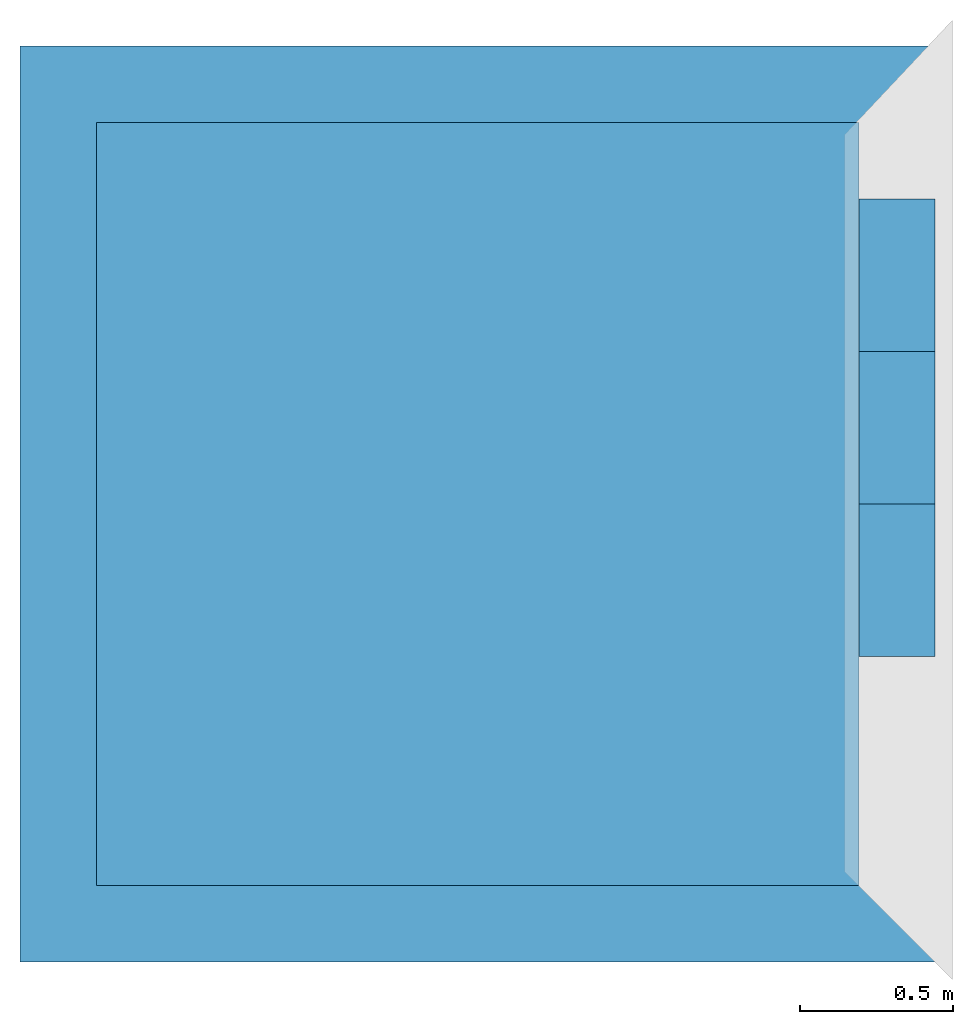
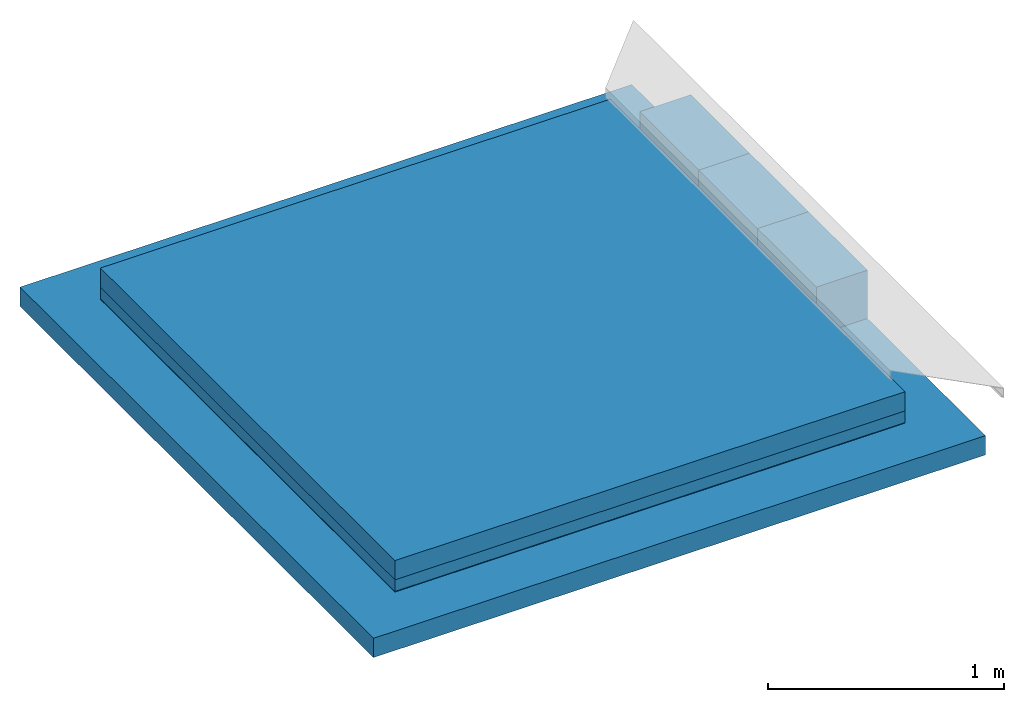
# One storey, part 1 of 2: 4 building element parts, 3 walls, 2 elements without a shape of their own.
"""IFC4 building model written with IfcOpenShell, lengths in centimetres."""

from ifc_helpers import new_model, entity, si_unit, converted_unit, direction, frame, origin, place, context, subcontext, project, spatial, indexed_curve, outline, extrude, material, type_object, element, aggregate, save


model = new_model("IFC4")

# Units and contexts
model_context = context("Model", 3, precision=0.001, world=origin(), true_north=direction((0.0, 1.0)))
body_context = subcontext(model_context, "Body", "Model", "MODEL_VIEW")
ifc_project = project(units=[si_unit("LENGTHUNIT", "METRE", prefix="CENTI"), si_unit("AREAUNIT", "SQUARE_METRE"), si_unit("VOLUMEUNIT", "CUBIC_METRE"), converted_unit("PLANEANGLEUNIT", "DEGREE", entity("IfcPlaneAngleMeasure", 0.017453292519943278), si_unit("PLANEANGLEUNIT", "RADIAN"), dimensions=[0, 0, 0, 0, 0, 0, 0])], contexts=[model_context])

# Site, building, storey
site_placement = place(None, origin())
site = spatial("IfcSite", under=ifc_project, at=site_placement, Name="Default", CompositionType="ELEMENT")
building_placement = place(site_placement, origin())
building = spatial("IfcBuilding", under=site, at=building_placement, CompositionType="ELEMENT")
storey_placement = place(building_placement, frame((0.0, 0.0, 256.0)))
storey = spatial("IfcBuildingStorey", under=building, at=storey_placement, Name="L01__ABOVE Slab", CompositionType="ELEMENT", Elevation=255.9999999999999)

# Walls
ifc_material_1 = material(Name="Miscellaneous__Timber Block__Triqbriq, X", Category="Miscellaneous")
wall_type = type_object("IfcWallType", Name="Columns : wll_s__TIMBER BLOCK__Triqbriq, Full Width__wp : WS25", PredefinedType="SOLIDWALL", material=ifc_material_1)
wall_1_placement = place(storey_placement, frame((3156.8289147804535, 2228.52003096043, 0.0), z_axis=(0.0, 0.0, 1.0), x_axis=(0.0, 1.0, 0.0)))
element("IfcWall", 1, at=wall_1_placement, inside=storey, type_object=wall_type, material=ifc_material_1, Name="Columns : wll_s__TIMBER BLOCK__Triqbriq, Full Width__wp : WS25", PredefinedType="SOLIDWALL", context=body_context, shape_type="SweptSolid", body=[
    extrude(outline(indexed_curve([(-4.166666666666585, -4.166666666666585), (4.166666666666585, -4.166666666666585), (4.166666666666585, 4.166666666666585), (-4.166666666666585, 4.166666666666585), (-4.166666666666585, -4.166666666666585)], self_intersect=False)), frame((12.500000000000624, -12.500000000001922, 16.666666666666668)), (0.0, 0.0, 1.0), 8.333333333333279),
    extrude(outline(indexed_curve([(-4.166666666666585, -4.166666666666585), (4.166666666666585, -4.166666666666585), (4.166666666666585, 4.166666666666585), (-4.166666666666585, 4.166666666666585), (-4.166666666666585, -4.166666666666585)], self_intersect=False)), frame((37.50000000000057, -12.500000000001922, 16.666666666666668)), (0.0, 0.0, 1.0), 8.333333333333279),
    extrude(outline(indexed_curve([(-4.166666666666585, -4.166666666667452), (4.166666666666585, -4.166666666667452), (4.166666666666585, 4.166666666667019), (-4.166666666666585, 4.166666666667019), (-4.166666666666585, -4.166666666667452)], self_intersect=False)), frame((4.166666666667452, -4.166666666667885, 8.333333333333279)), (0.0, 0.0, 1.0), 8.333333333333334),
    extrude(outline(indexed_curve([(-4.166666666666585, -4.166666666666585), (4.166666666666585, -4.166666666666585), (4.166666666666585, 4.166666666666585), (-4.166666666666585, 4.166666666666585), (-4.166666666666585, -4.166666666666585)], self_intersect=False)), frame((4.166666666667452, -20.833333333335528, 8.333333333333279)), (0.0, 0.0, 1.0), 8.333333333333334),
    extrude(outline(indexed_curve([(-4.166666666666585, -4.166666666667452), (4.166666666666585, -4.166666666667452), (4.166666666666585, 4.166666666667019), (-4.166666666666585, 4.166666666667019), (-4.166666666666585, -4.166666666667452)], self_intersect=False)), frame((45.833333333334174, -4.166666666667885, 8.333333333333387)), (0.0, 0.0, 1.0), 8.333333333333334),
    extrude(outline(indexed_curve([(-4.166666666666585, -4.166666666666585), (4.166666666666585, -4.166666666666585), (4.166666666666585, 4.166666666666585), (-4.166666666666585, 4.166666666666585), (-4.166666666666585, -4.166666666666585)], self_intersect=False)), frame((45.833333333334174, -20.833333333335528, 8.333333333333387)), (0.0, 0.0, 1.0), 8.333333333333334),
    extrude(outline(indexed_curve([(-8.33333333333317, -4.166666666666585), (8.333333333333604, -4.166666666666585), (8.333333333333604, 4.166666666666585), (-8.33333333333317, 4.166666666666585), (-8.33333333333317, -4.166666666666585)], self_intersect=False)), frame((25.0, -20.833333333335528, 8.333333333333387)), (0.0, 0.0, 1.0), 8.333333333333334),
    extrude(outline(indexed_curve([(-8.33333333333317, -4.166666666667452), (8.333333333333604, -4.166666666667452), (8.333333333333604, 4.166666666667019), (-8.33333333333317, 4.166666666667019), (-8.33333333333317, -4.166666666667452)], self_intersect=False)), frame((25.0, -4.166666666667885, 8.333333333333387)), (0.0, 0.0, 1.0), 8.333333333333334),
    extrude(outline(indexed_curve([(-24.999999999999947, -4.166666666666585), (24.999999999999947, -4.166666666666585), (24.999999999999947, 4.166666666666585), (-24.999999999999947, 4.166666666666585), (-24.999999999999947, -4.166666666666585)], self_intersect=False)), frame((25.0, -12.500000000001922, 8.333333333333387)), (0.0, 0.0, 1.0), 8.333333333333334),
    extrude(outline(indexed_curve([(-4.166666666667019, -12.50000000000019), (4.166666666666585, -12.50000000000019), (4.166666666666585, 12.500000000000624), (-4.166666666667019, 12.500000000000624), (-4.166666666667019, -12.50000000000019)], self_intersect=False)), frame((20.833333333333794, -12.500000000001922, 0.0)), (0.0, 0.0, 1.0), 8.333333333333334),
    extrude(outline(indexed_curve([(-4.166666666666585, -12.50000000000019), (4.166666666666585, -12.50000000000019), (4.166666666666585, 12.500000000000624), (-4.166666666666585, 12.500000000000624), (-4.166666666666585, -12.50000000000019)], self_intersect=False)), frame((29.166666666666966, -12.500000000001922, 0.0)), (0.0, 0.0, 1.0), 8.333333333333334),
    extrude(outline(indexed_curve([(-4.166666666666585, -12.50000000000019), (4.166666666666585, -12.50000000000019), (4.166666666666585, 12.500000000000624), (-4.166666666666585, 12.500000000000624), (-4.166666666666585, -12.50000000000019)], self_intersect=False)), frame((4.166666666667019, -12.500000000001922, 0.0)), (0.0, 0.0, 1.0), 8.333333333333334),
    extrude(outline(indexed_curve([(-4.166666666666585, -12.50000000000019), (4.166666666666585, -12.50000000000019), (4.166666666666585, 12.500000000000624), (-4.166666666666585, 12.500000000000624), (-4.166666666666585, -12.50000000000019)], self_intersect=False)), frame((45.83333333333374, -12.500000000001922, 0.0)), (0.0, 0.0, 1.0), 8.333333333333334),
    extrude(outline(indexed_curve([(-4.166666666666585, -4.166666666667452), (4.166666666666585, -4.166666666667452), (4.166666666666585, 4.166666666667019), (-4.166666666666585, 4.166666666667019), (-4.166666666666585, -4.166666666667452)], self_intersect=False)), frame((12.50000000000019, -4.166666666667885, 0.0)), (0.0, 0.0, 1.0), 25.0),
    extrude(outline(indexed_curve([(-4.166666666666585, -4.166666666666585), (4.166666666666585, -4.166666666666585), (4.166666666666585, 4.166666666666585), (-4.166666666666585, 4.166666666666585), (-4.166666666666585, -4.166666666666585)], self_intersect=False)), frame((12.50000000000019, -20.833333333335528, 0.0)), (0.0, 0.0, 1.0), 25.0),
    extrude(outline(indexed_curve([(-4.166666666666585, -4.166666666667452), (4.166666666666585, -4.166666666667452), (4.166666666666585, 4.166666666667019), (-4.166666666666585, 4.166666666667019), (-4.166666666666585, -4.166666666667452)], self_intersect=False)), frame((37.500000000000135, -4.166666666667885, 0.0)), (0.0, 0.0, 1.0), 25.0),
    extrude(outline(indexed_curve([(-4.166666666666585, -4.166666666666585), (4.166666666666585, -4.166666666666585), (4.166666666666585, 4.166666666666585), (-4.166666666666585, 4.166666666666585), (-4.166666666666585, -4.166666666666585)], self_intersect=False)), frame((37.500000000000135, -20.833333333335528, 0.0)), (0.0, 0.0, 1.0), 25.0),
    extrude(outline(indexed_curve([(-4.166666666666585, -12.50000000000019), (4.166666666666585, -12.50000000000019), (4.166666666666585, 12.500000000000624), (-4.166666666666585, 12.500000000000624), (-4.166666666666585, -12.50000000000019)], self_intersect=False)), frame((4.166666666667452, -12.500000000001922, 16.666666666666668)), (0.0, 0.0, 1.0), 8.333333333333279),
    extrude(outline(indexed_curve([(-4.166666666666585, -12.50000000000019), (4.166666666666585, -12.50000000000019), (4.166666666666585, 12.500000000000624), (-4.166666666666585, 12.500000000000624), (-4.166666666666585, -12.50000000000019)], self_intersect=False)), frame((20.833333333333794, -12.500000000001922, 16.666666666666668)), (0.0, 0.0, 1.0), 8.333333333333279),
    extrude(outline(indexed_curve([(-4.166666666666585, -12.50000000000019), (4.166666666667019, -12.50000000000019), (4.166666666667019, 12.500000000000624), (-4.166666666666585, 12.500000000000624), (-4.166666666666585, -12.50000000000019)], self_intersect=False)), frame((29.166666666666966, -12.500000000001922, 16.666666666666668)), (0.0, 0.0, 1.0), 8.333333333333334),
    extrude(outline(indexed_curve([(-4.166666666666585, -12.50000000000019), (4.166666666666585, -12.50000000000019), (4.166666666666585, 12.500000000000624), (-4.166666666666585, 12.500000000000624), (-4.166666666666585, -12.50000000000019)], self_intersect=False)), frame((45.833333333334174, -12.500000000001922, 16.666666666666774)), (0.0, 0.0, 1.0), 8.333333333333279),
])
wall_2_placement = place(storey_placement, frame((3156.8289147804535, 2278.5200309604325, 0.0), z_axis=(0.0, 0.0, 1.0), x_axis=(0.0, 1.0, 0.0)))
element("IfcWall", 2, at=wall_2_placement, inside=storey, type_object=wall_type, material=ifc_material_1, Name="Columns : wll_s__TIMBER BLOCK__Triqbriq, Full Width__wp : WS25", PredefinedType="SOLIDWALL", context=body_context, shape_type="SweptSolid", body=[
    extrude(outline(indexed_curve([(-4.166666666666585, -4.166666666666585), (4.166666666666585, -4.166666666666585), (4.166666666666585, 4.166666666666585), (-4.166666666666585, 4.166666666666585), (-4.166666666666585, -4.166666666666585)], self_intersect=False)), frame((12.500000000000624, -12.500000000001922, 16.666666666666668)), (0.0, 0.0, 1.0), 8.333333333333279),
    extrude(outline(indexed_curve([(-4.166666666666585, -4.166666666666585), (4.166666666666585, -4.166666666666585), (4.166666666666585, 4.166666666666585), (-4.166666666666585, 4.166666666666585), (-4.166666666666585, -4.166666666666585)], self_intersect=False)), frame((37.50000000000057, -12.500000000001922, 16.666666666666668)), (0.0, 0.0, 1.0), 8.333333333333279),
    extrude(outline(indexed_curve([(-4.166666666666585, -4.166666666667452), (4.166666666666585, -4.166666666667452), (4.166666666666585, 4.166666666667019), (-4.166666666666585, 4.166666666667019), (-4.166666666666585, -4.166666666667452)], self_intersect=False)), frame((4.166666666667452, -4.166666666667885, 8.333333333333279)), (0.0, 0.0, 1.0), 8.333333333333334),
    extrude(outline(indexed_curve([(-4.166666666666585, -4.166666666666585), (4.166666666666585, -4.166666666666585), (4.166666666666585, 4.166666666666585), (-4.166666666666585, 4.166666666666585), (-4.166666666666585, -4.166666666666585)], self_intersect=False)), frame((4.166666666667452, -20.833333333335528, 8.333333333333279)), (0.0, 0.0, 1.0), 8.333333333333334),
    extrude(outline(indexed_curve([(-4.166666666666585, -4.166666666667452), (4.166666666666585, -4.166666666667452), (4.166666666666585, 4.166666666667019), (-4.166666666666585, 4.166666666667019), (-4.166666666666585, -4.166666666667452)], self_intersect=False)), frame((45.833333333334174, -4.166666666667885, 8.333333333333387)), (0.0, 0.0, 1.0), 8.333333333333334),
    extrude(outline(indexed_curve([(-4.166666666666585, -4.166666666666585), (4.166666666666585, -4.166666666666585), (4.166666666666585, 4.166666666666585), (-4.166666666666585, 4.166666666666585), (-4.166666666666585, -4.166666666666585)], self_intersect=False)), frame((45.833333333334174, -20.833333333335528, 8.333333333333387)), (0.0, 0.0, 1.0), 8.333333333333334),
    extrude(outline(indexed_curve([(-8.33333333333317, -4.166666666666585), (8.333333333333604, -4.166666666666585), (8.333333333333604, 4.166666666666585), (-8.33333333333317, 4.166666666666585), (-8.33333333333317, -4.166666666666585)], self_intersect=False)), frame((25.0, -20.833333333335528, 8.333333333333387)), (0.0, 0.0, 1.0), 8.333333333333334),
    extrude(outline(indexed_curve([(-8.33333333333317, -4.166666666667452), (8.333333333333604, -4.166666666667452), (8.333333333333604, 4.166666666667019), (-8.33333333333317, 4.166666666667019), (-8.33333333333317, -4.166666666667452)], self_intersect=False)), frame((25.0, -4.166666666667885, 8.333333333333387)), (0.0, 0.0, 1.0), 8.333333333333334),
    extrude(outline(indexed_curve([(-24.999999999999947, -4.166666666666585), (24.999999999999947, -4.166666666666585), (24.999999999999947, 4.166666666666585), (-24.999999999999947, 4.166666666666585), (-24.999999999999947, -4.166666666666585)], self_intersect=False)), frame((25.0, -12.500000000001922, 8.333333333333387)), (0.0, 0.0, 1.0), 8.333333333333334),
    extrude(outline(indexed_curve([(-4.166666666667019, -12.50000000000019), (4.166666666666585, -12.50000000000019), (4.166666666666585, 12.500000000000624), (-4.166666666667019, 12.500000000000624), (-4.166666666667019, -12.50000000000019)], self_intersect=False)), frame((20.833333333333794, -12.500000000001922, 0.0)), (0.0, 0.0, 1.0), 8.333333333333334),
    extrude(outline(indexed_curve([(-4.166666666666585, -12.50000000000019), (4.166666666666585, -12.50000000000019), (4.166666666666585, 12.500000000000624), (-4.166666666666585, 12.500000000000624), (-4.166666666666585, -12.50000000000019)], self_intersect=False)), frame((29.166666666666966, -12.500000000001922, 0.0)), (0.0, 0.0, 1.0), 8.333333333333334),
    extrude(outline(indexed_curve([(-4.166666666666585, -12.50000000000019), (4.166666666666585, -12.50000000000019), (4.166666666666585, 12.500000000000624), (-4.166666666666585, 12.500000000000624), (-4.166666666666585, -12.50000000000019)], self_intersect=False)), frame((4.166666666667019, -12.500000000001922, 0.0)), (0.0, 0.0, 1.0), 8.333333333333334),
    extrude(outline(indexed_curve([(-4.166666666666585, -12.50000000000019), (4.166666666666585, -12.50000000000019), (4.166666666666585, 12.500000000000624), (-4.166666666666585, 12.500000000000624), (-4.166666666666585, -12.50000000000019)], self_intersect=False)), frame((45.83333333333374, -12.500000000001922, 0.0)), (0.0, 0.0, 1.0), 8.333333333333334),
    extrude(outline(indexed_curve([(-4.166666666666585, -4.166666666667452), (4.166666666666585, -4.166666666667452), (4.166666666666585, 4.166666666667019), (-4.166666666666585, 4.166666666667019), (-4.166666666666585, -4.166666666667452)], self_intersect=False)), frame((12.50000000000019, -4.166666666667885, 0.0)), (0.0, 0.0, 1.0), 25.0),
    extrude(outline(indexed_curve([(-4.166666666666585, -4.166666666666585), (4.166666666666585, -4.166666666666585), (4.166666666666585, 4.166666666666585), (-4.166666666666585, 4.166666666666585), (-4.166666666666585, -4.166666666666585)], self_intersect=False)), frame((12.50000000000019, -20.833333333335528, 0.0)), (0.0, 0.0, 1.0), 25.0),
    extrude(outline(indexed_curve([(-4.166666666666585, -4.166666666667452), (4.166666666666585, -4.166666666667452), (4.166666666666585, 4.166666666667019), (-4.166666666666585, 4.166666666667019), (-4.166666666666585, -4.166666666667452)], self_intersect=False)), frame((37.500000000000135, -4.166666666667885, 0.0)), (0.0, 0.0, 1.0), 25.0),
    extrude(outline(indexed_curve([(-4.166666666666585, -4.166666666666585), (4.166666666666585, -4.166666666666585), (4.166666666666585, 4.166666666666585), (-4.166666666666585, 4.166666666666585), (-4.166666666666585, -4.166666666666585)], self_intersect=False)), frame((37.500000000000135, -20.833333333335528, 0.0)), (0.0, 0.0, 1.0), 25.0),
    extrude(outline(indexed_curve([(-4.166666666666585, -12.50000000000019), (4.166666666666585, -12.50000000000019), (4.166666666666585, 12.500000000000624), (-4.166666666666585, 12.500000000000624), (-4.166666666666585, -12.50000000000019)], self_intersect=False)), frame((4.166666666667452, -12.500000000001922, 16.666666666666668)), (0.0, 0.0, 1.0), 8.333333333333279),
    extrude(outline(indexed_curve([(-4.166666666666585, -12.50000000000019), (4.166666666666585, -12.50000000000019), (4.166666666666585, 12.500000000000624), (-4.166666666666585, 12.500000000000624), (-4.166666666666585, -12.50000000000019)], self_intersect=False)), frame((20.833333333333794, -12.500000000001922, 16.666666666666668)), (0.0, 0.0, 1.0), 8.333333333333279),
    extrude(outline(indexed_curve([(-4.166666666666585, -12.50000000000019), (4.166666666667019, -12.50000000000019), (4.166666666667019, 12.500000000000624), (-4.166666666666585, 12.500000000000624), (-4.166666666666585, -12.50000000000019)], self_intersect=False)), frame((29.166666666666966, -12.500000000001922, 16.666666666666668)), (0.0, 0.0, 1.0), 8.333333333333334),
    extrude(outline(indexed_curve([(-4.166666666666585, -12.50000000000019), (4.166666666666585, -12.50000000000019), (4.166666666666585, 12.500000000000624), (-4.166666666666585, 12.500000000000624), (-4.166666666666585, -12.50000000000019)], self_intersect=False)), frame((45.833333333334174, -12.500000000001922, 16.666666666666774)), (0.0, 0.0, 1.0), 8.333333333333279),
])
wall_3_placement = place(storey_placement, frame((3156.8289147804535, 2328.520030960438, 0.0), z_axis=(0.0, 0.0, 1.0), x_axis=(0.0, 1.0, 0.0)))
element("IfcWall", 3, at=wall_3_placement, inside=storey, type_object=wall_type, material=ifc_material_1, Name="Columns : wll_s__TIMBER BLOCK__Triqbriq, Full Width__wp : WS25", PredefinedType="SOLIDWALL", context=body_context, shape_type="SweptSolid", body=[
    extrude(outline(indexed_curve([(-4.166666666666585, -4.166666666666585), (4.166666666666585, -4.166666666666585), (4.166666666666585, 4.166666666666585), (-4.166666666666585, 4.166666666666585), (-4.166666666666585, -4.166666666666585)], self_intersect=False)), frame((12.500000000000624, -12.500000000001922, 16.666666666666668)), (0.0, 0.0, 1.0), 8.333333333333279),
    extrude(outline(indexed_curve([(-4.166666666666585, -4.166666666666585), (4.166666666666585, -4.166666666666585), (4.166666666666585, 4.166666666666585), (-4.166666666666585, 4.166666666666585), (-4.166666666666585, -4.166666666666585)], self_intersect=False)), frame((37.50000000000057, -12.500000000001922, 16.666666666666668)), (0.0, 0.0, 1.0), 8.333333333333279),
    extrude(outline(indexed_curve([(-4.166666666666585, -4.166666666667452), (4.166666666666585, -4.166666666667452), (4.166666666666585, 4.166666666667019), (-4.166666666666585, 4.166666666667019), (-4.166666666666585, -4.166666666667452)], self_intersect=False)), frame((4.166666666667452, -4.166666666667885, 8.333333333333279)), (0.0, 0.0, 1.0), 8.333333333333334),
    extrude(outline(indexed_curve([(-4.166666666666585, -4.166666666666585), (4.166666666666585, -4.166666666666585), (4.166666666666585, 4.166666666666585), (-4.166666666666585, 4.166666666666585), (-4.166666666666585, -4.166666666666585)], self_intersect=False)), frame((4.166666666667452, -20.833333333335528, 8.333333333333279)), (0.0, 0.0, 1.0), 8.333333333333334),
    extrude(outline(indexed_curve([(-4.166666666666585, -4.166666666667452), (4.166666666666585, -4.166666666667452), (4.166666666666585, 4.166666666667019), (-4.166666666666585, 4.166666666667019), (-4.166666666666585, -4.166666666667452)], self_intersect=False)), frame((45.833333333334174, -4.166666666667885, 8.333333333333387)), (0.0, 0.0, 1.0), 8.333333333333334),
    extrude(outline(indexed_curve([(-4.166666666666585, -4.166666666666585), (4.166666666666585, -4.166666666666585), (4.166666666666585, 4.166666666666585), (-4.166666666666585, 4.166666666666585), (-4.166666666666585, -4.166666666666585)], self_intersect=False)), frame((45.833333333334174, -20.833333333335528, 8.333333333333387)), (0.0, 0.0, 1.0), 8.333333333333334),
    extrude(outline(indexed_curve([(-8.333333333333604, -4.166666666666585), (8.33333333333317, -4.166666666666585), (8.33333333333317, 4.166666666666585), (-8.333333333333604, 4.166666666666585), (-8.333333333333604, -4.166666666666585)], self_intersect=False)), frame((25.0, -20.833333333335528, 8.333333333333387)), (0.0, 0.0, 1.0), 8.333333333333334),
    extrude(outline(indexed_curve([(-8.333333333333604, -4.166666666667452), (8.33333333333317, -4.166666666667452), (8.33333333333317, 4.166666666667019), (-8.333333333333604, 4.166666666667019), (-8.333333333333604, -4.166666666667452)], self_intersect=False)), frame((25.0, -4.166666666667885, 8.333333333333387)), (0.0, 0.0, 1.0), 8.333333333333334),
    extrude(outline(indexed_curve([(-24.999999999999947, -4.166666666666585), (24.999999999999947, -4.166666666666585), (24.999999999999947, 4.166666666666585), (-24.999999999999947, 4.166666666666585), (-24.999999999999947, -4.166666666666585)], self_intersect=False)), frame((25.0, -12.500000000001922, 8.333333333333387)), (0.0, 0.0, 1.0), 8.333333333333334),
    extrude(outline(indexed_curve([(-4.166666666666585, -12.50000000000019), (4.166666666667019, -12.50000000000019), (4.166666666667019, 12.500000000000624), (-4.166666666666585, 12.500000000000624), (-4.166666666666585, -12.50000000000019)], self_intersect=False)), frame((20.83333333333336, -12.500000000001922, 0.0)), (0.0, 0.0, 1.0), 8.333333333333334),
    extrude(outline(indexed_curve([(-4.166666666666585, -12.50000000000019), (4.166666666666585, -12.50000000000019), (4.166666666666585, 12.500000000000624), (-4.166666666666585, 12.500000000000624), (-4.166666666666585, -12.50000000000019)], self_intersect=False)), frame((29.166666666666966, -12.500000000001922, 0.0)), (0.0, 0.0, 1.0), 8.333333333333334),
    extrude(outline(indexed_curve([(-4.166666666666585, -12.50000000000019), (4.166666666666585, -12.50000000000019), (4.166666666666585, 12.500000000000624), (-4.166666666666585, 12.500000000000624), (-4.166666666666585, -12.50000000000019)], self_intersect=False)), frame((4.166666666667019, -12.500000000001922, 0.0)), (0.0, 0.0, 1.0), 8.333333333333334),
    extrude(outline(indexed_curve([(-4.166666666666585, -12.50000000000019), (4.166666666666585, -12.50000000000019), (4.166666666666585, 12.500000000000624), (-4.166666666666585, 12.500000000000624), (-4.166666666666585, -12.50000000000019)], self_intersect=False)), frame((45.83333333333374, -12.500000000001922, 0.0)), (0.0, 0.0, 1.0), 8.333333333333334),
    extrude(outline(indexed_curve([(-4.166666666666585, -4.166666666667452), (4.166666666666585, -4.166666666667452), (4.166666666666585, 4.166666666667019), (-4.166666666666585, 4.166666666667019), (-4.166666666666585, -4.166666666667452)], self_intersect=False)), frame((12.50000000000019, -4.166666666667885, 0.0)), (0.0, 0.0, 1.0), 25.0),
    extrude(outline(indexed_curve([(-4.166666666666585, -4.166666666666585), (4.166666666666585, -4.166666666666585), (4.166666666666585, 4.166666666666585), (-4.166666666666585, 4.166666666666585), (-4.166666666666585, -4.166666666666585)], self_intersect=False)), frame((12.50000000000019, -20.833333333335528, 0.0)), (0.0, 0.0, 1.0), 25.0),
    extrude(outline(indexed_curve([(-4.166666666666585, -4.166666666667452), (4.166666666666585, -4.166666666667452), (4.166666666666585, 4.166666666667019), (-4.166666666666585, 4.166666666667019), (-4.166666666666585, -4.166666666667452)], self_intersect=False)), frame((37.500000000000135, -4.166666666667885, 0.0)), (0.0, 0.0, 1.0), 25.0),
    extrude(outline(indexed_curve([(-4.166666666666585, -4.166666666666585), (4.166666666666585, -4.166666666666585), (4.166666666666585, 4.166666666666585), (-4.166666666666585, 4.166666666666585), (-4.166666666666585, -4.166666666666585)], self_intersect=False)), frame((37.500000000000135, -20.833333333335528, 0.0)), (0.0, 0.0, 1.0), 25.0),
    extrude(outline(indexed_curve([(-4.166666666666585, -12.50000000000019), (4.166666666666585, -12.50000000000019), (4.166666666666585, 12.500000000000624), (-4.166666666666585, 12.500000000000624), (-4.166666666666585, -12.50000000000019)], self_intersect=False)), frame((4.166666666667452, -12.500000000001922, 16.666666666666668)), (0.0, 0.0, 1.0), 8.333333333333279),
    extrude(outline(indexed_curve([(-4.166666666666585, -12.50000000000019), (4.166666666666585, -12.50000000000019), (4.166666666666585, 12.500000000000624), (-4.166666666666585, 12.500000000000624), (-4.166666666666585, -12.50000000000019)], self_intersect=False)), frame((20.833333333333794, -12.500000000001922, 16.666666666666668)), (0.0, 0.0, 1.0), 8.333333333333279),
    extrude(outline(indexed_curve([(-4.166666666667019, -12.50000000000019), (4.166666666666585, -12.50000000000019), (4.166666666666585, 12.500000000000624), (-4.166666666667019, 12.500000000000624), (-4.166666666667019, -12.50000000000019)], self_intersect=False)), frame((29.1666666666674, -12.500000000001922, 16.666666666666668)), (0.0, 0.0, 1.0), 8.333333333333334),
    extrude(outline(indexed_curve([(-4.166666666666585, -12.50000000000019), (4.166666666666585, -12.50000000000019), (4.166666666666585, 12.500000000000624), (-4.166666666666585, 12.500000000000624), (-4.166666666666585, -12.50000000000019)], self_intersect=False)), frame((45.833333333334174, -12.500000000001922, 16.666666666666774)), (0.0, 0.0, 1.0), 8.333333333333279),
])

# Slab, building element part
slab_type_1 = type_object("IfcSlabType", Name="Floors : Floor : flr__STRUCTURE__Wood CLT 10cm__TriqBriq 2", PredefinedType="FLOOR")
slab_1_placement = place(storey_placement, origin())
slab_1 = element("IfcSlab", 4, at=slab_1_placement, inside=storey, type_object=slab_type_1, Name="Floors : Floor : flr__STRUCTURE__Wood CLT 10cm__TriqBriq 2", PredefinedType="FLOOR")
ifc_material_2 = material(Name="_STRUCTURE__Wood CLT")
building_element_part_1_placement = place(slab_1_placement, origin())
building_element_part_1 = element("IfcBuildingElementPart", 5, at=building_element_part_1_placement, material=ifc_material_2, Name="_STRUCTURE__Wood CLT", context=body_context, shape_type="SweptSolid", body=[
    extrude(outline(indexed_curve([(-150.10000000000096, -149.9999999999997), (150.1000000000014, -149.9999999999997), (150.1000000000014, 149.9999999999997), (-150.10000000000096, 149.9999999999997), (-150.10000000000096, -149.9999999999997)], self_intersect=False)), frame((3031.8289147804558, 2278.420030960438, -10.0), z_axis=(0.0, 0.0, 1.0), x_axis=(0.0, -1.0, 0.0)), (0.0, 0.0, 1.0), 10.0),
])
aggregate(slab_1, [building_element_part_1])

# Slab, building element parts
slab_type_2 = type_object("IfcSlabType", Name="Floors : Floor : flr__EXT ENCLOSURE__Vegetation, 13.4cm__TriqBriq 2", PredefinedType="FLOOR")
slab_2_placement = place(storey_placement, origin())
slab_2 = element("IfcSlab", 6, at=slab_2_placement, inside=storey, type_object=slab_type_2, Name="Floors : Floor : flr__EXT ENCLOSURE__Vegetation, 13.4cm__TriqBriq 2", PredefinedType="FLOOR")
ifc_material_3 = material(Name="_GREENERY__Subgrade__Earth")
building_element_part_2_placement = place(slab_2_placement, origin())
building_element_part_2 = element("IfcBuildingElementPart", 7, at=building_element_part_2_placement, material=ifc_material_3, Name="_GREENERY__Subgrade__Earth", context=body_context, shape_type="SweptSolid", body=[
    extrude(outline(indexed_curve([(-125.04999999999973, -125.00000000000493), (125.04999999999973, -125.00000000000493), (125.04999999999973, 125.00000000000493), (-125.04999999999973, 125.00000000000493), (-125.04999999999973, -125.00000000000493)], self_intersect=False)), frame((3031.8289147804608, 2278.470030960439, 6.299999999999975), z_axis=(0.0, 0.0, 1.0), x_axis=(0.0, -1.0, 0.0)), (0.0, 0.0, 1.0), 10.0),
])
ifc_material_4 = material(Name="_FLR LAYERS__Equalization Infill__Gravel", Category="Unassigned")
building_element_part_3_placement = place(slab_2_placement, origin())
building_element_part_3 = element("IfcBuildingElementPart", 8, at=building_element_part_3_placement, material=ifc_material_4, Name="_FLR LAYERS__Equalization Infill__Gravel", context=body_context, shape_type="SweptSolid", body=[
    extrude(outline(indexed_curve([(-125.04999999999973, -125.00000000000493), (125.04999999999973, -125.00000000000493), (125.04999999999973, 125.00000000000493), (-125.04999999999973, 125.00000000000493), (-125.04999999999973, -125.00000000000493)], self_intersect=False)), frame((3031.8289147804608, 2278.470030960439, 0.29999999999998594), z_axis=(0.0, 0.0, 1.0), x_axis=(0.0, -1.0, 0.0)), (0.0, 0.0, 1.0), 5.999999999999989),
])
ifc_material_5 = material(Name="_FLAT ROOF LAYERS__WP Membrane", Category="Unassigned")
building_element_part_4_placement = place(slab_2_placement, origin())
building_element_part_4 = element("IfcBuildingElementPart", 9, at=building_element_part_4_placement, material=ifc_material_5, Name="_FLAT ROOF LAYERS__WP Membrane", context=body_context, shape_type="SweptSolid", body=[
    extrude(outline(indexed_curve([(-125.04999999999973, -125.00000000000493), (125.04999999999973, -125.00000000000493), (125.04999999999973, 125.00000000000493), (-125.04999999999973, 125.00000000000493), (-125.04999999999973, -125.00000000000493)], self_intersect=False)), frame((3031.8289147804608, 2278.470030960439, 0.0), z_axis=(0.0, 0.0, 1.0), x_axis=(0.0, -1.0, 0.0)), (0.0, 0.0, 1.0), 0.29999999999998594),
])
aggregate(slab_2, [building_element_part_2, building_element_part_3, building_element_part_4])

save(model, "model.ifc")
